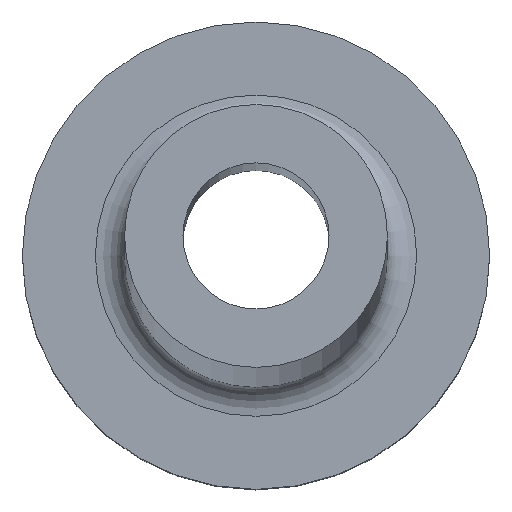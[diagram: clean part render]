
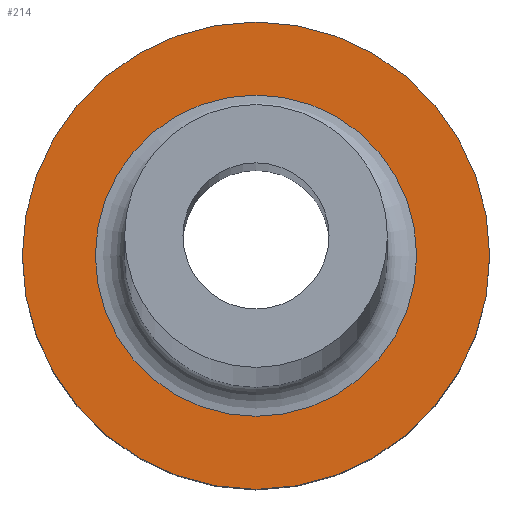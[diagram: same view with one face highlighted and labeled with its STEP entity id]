
A CAD part, top view. The second image highlights one B-rep face of the part: STEP entity #214.
In plain terms, the highlighted planar face has unit normal (0, 0, 1).
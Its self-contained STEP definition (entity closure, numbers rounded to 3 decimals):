
#16 = ORIENTED_EDGE ( 'NONE', *, *, #228, .T. ) ;
#22 = AXIS2_PLACEMENT_3D ( 'NONE', #83, #142, #235 ) ;
#30 = ORIENTED_EDGE ( 'NONE', *, *, #266, .T. ) ;
#41 = AXIS2_PLACEMENT_3D ( 'NONE', #177, #145, #78 ) ;
#53 = FACE_BOUND ( 'NONE', #93, .T. ) ;
#58 = CARTESIAN_POINT ( 'NONE',  ( 2.75, 0., 6. ) ) ;
#67 = VERTEX_POINT ( 'NONE', #58 ) ;
#78 = DIRECTION ( 'NONE',  ( 1., 0., 0. ) ) ;
#83 = CARTESIAN_POINT ( 'NONE',  ( 0., 0., 6. ) ) ;
#93 = EDGE_LOOP ( 'NONE', ( #16 ) ) ;
#102 = EDGE_LOOP ( 'NONE', ( #30 ) ) ;
#140 = DIRECTION ( 'NONE',  ( 1., 0., 0. ) ) ;
#142 = DIRECTION ( 'NONE',  ( 0., 0., 1. ) ) ;
#145 = DIRECTION ( 'NONE',  ( 0., 0., 1. ) ) ;
#161 = AXIS2_PLACEMENT_3D ( 'NONE', #239, #210, #140 ) ;
#173 = CIRCLE ( 'NONE', #161, 2.75 ) ;
#177 = CARTESIAN_POINT ( 'NONE',  ( 0., 0., 6. ) ) ;
#179 = CIRCLE ( 'NONE', #41, 4. ) ;
#207 = PLANE ( 'NONE',  #22 ) ;
#210 = DIRECTION ( 'NONE',  ( 0., 0., -1. ) ) ;
#214 = ADVANCED_FACE ( 'NONE', ( #53, #279 ), #207, .T. ) ;
#217 = CARTESIAN_POINT ( 'NONE',  ( 4., 0., 6. ) ) ;
#228 = EDGE_CURVE ( 'NONE', #67, #67, #173, .T. ) ;
#235 = DIRECTION ( 'NONE',  ( 1., 0., 0. ) ) ;
#239 = CARTESIAN_POINT ( 'NONE',  ( 0., 0., 6. ) ) ;
#260 = VERTEX_POINT ( 'NONE', #217 ) ;
#266 = EDGE_CURVE ( 'NONE', #260, #260, #179, .T. ) ;
#279 = FACE_OUTER_BOUND ( 'NONE', #102, .T. ) ;
